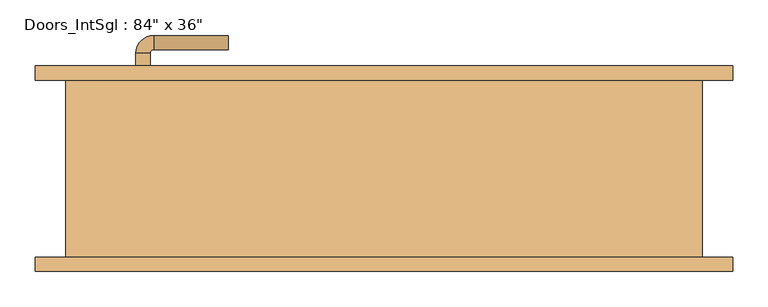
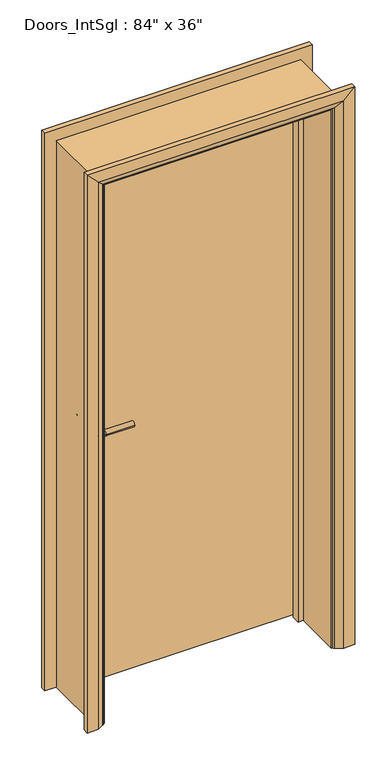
"""IFC4 building model written with IfcOpenShell, lengths in millimetres: door geometry."""

import ifcopenshell
import ifcopenshell.guid

model = None  # the IFC model being written
_history = None  # IfcOwnerHistory: only IFC2X3 demands one
_inside = {}  # id of a spatial element -> (the spatial element, [elements in it])
_under = {}  # id of a project, library or spatial element -> (it, [spatial elements below it])
_declared = {}  # id of a project -> (the project, [libraries it declares])
_typed = {}  # id of a type object -> (the type object, [elements of that type])
_made_of = {}  # id of a material, layer set ... -> (it, [elements and type objects made of it])


def new_model(schema):
    """Start an empty IFC model of exactly this schema.

    Asked for "IFC4X3", IfcOpenShell would pick the latest addendum, in which some entities
    have other attributes; the version numbers below select the first issue.
    IFC2X3 requires an IfcOwnerHistory on every rooted entity: one is made here for all.
    """
    global model, _history
    if schema == "IFC4X3":
        model = ifcopenshell.file(schema_version=(4, 3, 0, 0))
    else:
        model = ifcopenshell.file(schema=schema)
    _inside.clear()
    _under.clear()
    _declared.clear()
    _typed.clear()
    _made_of.clear()
    _history = None
    if model.schema == "IFC2X3":
        org = make("IfcOrganization", Name="unknown")
        user = make(
            "IfcPersonAndOrganization",
            ThePerson=make("IfcPerson", FamilyName="unknown"),
            TheOrganization=org,
        )
        app = make(
            "IfcApplication",
            ApplicationDeveloper=org,
            Version="unknown",
            ApplicationFullName="unknown",
            ApplicationIdentifier="unknown",
        )
        _history = make(
            "IfcOwnerHistory",
            OwningUser=user,
            OwningApplication=app,
            ChangeAction="ADDED",
            CreationDate=0,
        )
    return model


def make(cls, **values):
    """One entity of the class cls with the attributes given. An attribute that is None is left unset."""
    return model.create_entity(
        cls, **{name: value for name, value in values.items() if value is not None}
    )


def rooted(cls, **values):
    """An entity with a GlobalId (a new one), such as an element, a storey or a relation."""
    return make(cls, GlobalId=ifcopenshell.guid.new(), OwnerHistory=_history, **values)


def si_unit(unit_type, name, prefix=None):
    """IfcSIUnit, for example si_unit("LENGTHUNIT", "METRE", prefix="MILLI")."""
    return make("IfcSIUnit", UnitType=unit_type, Prefix=prefix, Name=name)


def assignment(units):
    """IfcUnitAssignment: the units of a project."""
    return None if units is None else make("IfcUnitAssignment", Units=units)


def point(xyz):
    """IfcCartesianPoint."""
    return None if xyz is None else make("IfcCartesianPoint", Coordinates=xyz)


def direction(xyz):
    """IfcDirection."""
    return None if xyz is None else make("IfcDirection", DirectionRatios=xyz)


def frame(location, z_axis=None, x_axis=None):
    """IfcAxis2Placement3D, a coordinate frame: its origin and axes. An axis left out is left unset."""
    return make(
        "IfcAxis2Placement3D",
        Location=point(location),
        Axis=direction(z_axis),
        RefDirection=direction(x_axis),
    )


def frame_2d(location, x_axis=None):
    """IfcAxis2Placement2D, a coordinate frame in the plane: its origin and x axis."""
    return make(
        "IfcAxis2Placement2D", Location=point(location), RefDirection=direction(x_axis)
    )


def origin():
    """The frame at (0, 0, 0) with its axes left unset."""
    return frame((0.0, 0.0, 0.0))


def place(relative_to, where):
    """IfcLocalPlacement: puts the frame where relative to a parent placement (None: the world)."""
    return make(
        "IfcLocalPlacement", PlacementRelTo=relative_to, RelativePlacement=where
    )


def context(
    kind, dimensions, precision=None, world=None, true_north=None, identifier=None
):
    """IfcGeometricRepresentationContext, for example the 3D "Model" context."""
    return make(
        "IfcGeometricRepresentationContext",
        ContextIdentifier=identifier,
        ContextType=kind,
        CoordinateSpaceDimension=dimensions,
        Precision=precision,
        WorldCoordinateSystem=world,
        TrueNorth=true_north,
    )


def project(units=None, contexts=None):
    """IfcProject with its units and contexts."""
    return rooted(
        "IfcProject",
        Name="project",
        RepresentationContexts=contexts,
        UnitsInContext=assignment(units),
    )


def spatial(cls, under=None, at=None, **own):
    """A site, building, storey or space (cls), placed at a placement, below another one or the project."""
    s = rooted(cls, ObjectPlacement=at, **own)
    if under is not None:
        _under.setdefault(under.id(), (under, []))[1].append(s)
    return s


def polyline(points):
    """IfcPolyline through the points."""
    return make("IfcPolyline", Points=[point(p) for p in points])


def circle_curve(where, radius):
    """IfcCircle in the frame where."""
    return make("IfcCircle", Position=where, Radius=radius)


def ellipse_curve(where, semi_axis1, semi_axis2):
    """IfcEllipse in the frame where."""
    return make(
        "IfcEllipse", Position=where, SemiAxis1=semi_axis1, SemiAxis2=semi_axis2
    )


def trimmed(basis, trim1, trim2, sense, master):
    """IfcTrimmedCurve: the piece of a basis curve between two trims."""
    return make(
        "IfcTrimmedCurve",
        BasisCurve=basis,
        Trim1=trim1,
        Trim2=trim2,
        SenseAgreement=sense,
        MasterRepresentation=master,
    )


def segment(curve, same_sense, transition):
    """IfcCompositeCurveSegment."""
    return make(
        "IfcCompositeCurveSegment",
        Transition=transition,
        SameSense=same_sense,
        ParentCurve=curve,
    )


def composite_curve(segments, self_intersect=None):
    """IfcCompositeCurve: segments joined end to end."""
    return make("IfcCompositeCurve", Segments=segments, SelfIntersect=self_intersect)


def outline(outer, holes=None, kind="AREA"):
    """IfcArbitraryClosedProfileDef: a profile drawn as a closed curve; with holes, ...WithVoids."""
    if holes is None:
        return make("IfcArbitraryClosedProfileDef", ProfileType=kind, OuterCurve=outer)
    return make(
        "IfcArbitraryProfileDefWithVoids",
        ProfileType=kind,
        OuterCurve=outer,
        InnerCurves=holes,
    )


def extrude(swept, where, along, depth):
    """IfcExtrudedAreaSolid: the profile swept, set in the frame where, extruded along a direction by depth."""
    return make(
        "IfcExtrudedAreaSolid",
        SweptArea=swept,
        Position=where,
        ExtrudedDirection=direction(along),
        Depth=depth,
    )


def faces_of(points, faces, orient=None, outer=None):
    """IfcFace entities. A face is a list of loops; a loop is a list of indices into points, from 0.

    orient and outer hold one flag for each loop. By default every Orientation is true, the
    first loop of a face is its IfcFaceOuterBound and the others are IfcFaceBound.
    """
    made = []
    for i, loops in enumerate(faces):
        bounds = []
        for j, loop in enumerate(loops):
            is_outer = j == 0 if outer is None else outer[i][j]
            bounds.append(
                make(
                    "IfcFaceOuterBound" if is_outer else "IfcFaceBound",
                    Bound=make("IfcPolyLoop", Polygon=[points[k] for k in loop]),
                    Orientation=True if orient is None else orient[i][j],
                )
            )
        made.append(make("IfcFace", Bounds=bounds))
    return made


def faceted_brep(points, faces, orient=None, outer=None, voids=None):
    """IfcFacetedBrep: a solid bounded by flat faces; with voids (closed shells), ...WithVoids."""
    shared = [point(p) for p in points]
    hull = make("IfcClosedShell", CfsFaces=faces_of(shared, faces, orient, outer))
    if voids is None:
        return make("IfcFacetedBrep", Outer=hull)
    return make(
        "IfcFacetedBrepWithVoids",
        Outer=hull,
        Voids=[
            make(cls, CfsFaces=faces_of(shared, fs, o, b)) for cls, fs, o, b in voids
        ],
    )


def shape(context_of_items, identifier, shape_type, items):
    """IfcShapeRepresentation: the items that make up one representation, for example the "Body"."""
    return make(
        "IfcShapeRepresentation",
        ContextOfItems=context_of_items,
        RepresentationIdentifier=identifier,
        RepresentationType=shape_type,
        Items=items,
    )


def source(mapping_origin, context_of_items, identifier, shape_type, items):
    """IfcRepresentationMap: a shape defined once, which mapped items show again and again."""
    return make(
        "IfcRepresentationMap",
        MappingOrigin=mapping_origin,
        MappedRepresentation=shape(context_of_items, identifier, shape_type, items),
    )


def transform(
    local_origin,
    x_axis=None,
    y_axis=None,
    z_axis=None,
    scale=None,
    scale2=None,
    scale3=None,
    uniform=True,
):
    """IfcCartesianTransformationOperator3D, or its non-uniform kind. x_axis, y_axis, z_axis: its Axis1, 2, 3."""
    if uniform:
        return make(
            "IfcCartesianTransformationOperator3D",
            Axis1=direction(x_axis),
            Axis2=direction(y_axis),
            LocalOrigin=point(local_origin),
            Scale=scale,
            Axis3=direction(z_axis),
        )
    return make(
        "IfcCartesianTransformationOperator3DnonUniform",
        Axis1=direction(x_axis),
        Axis2=direction(y_axis),
        LocalOrigin=point(local_origin),
        Scale=scale,
        Axis3=direction(z_axis),
        Scale2=scale2,
        Scale3=scale3,
    )


def mapped(mapping_source, mapping_target):
    """IfcMappedItem: shows the shape of a source again, moved by a transform."""
    return make(
        "IfcMappedItem", MappingSource=mapping_source, MappingTarget=mapping_target
    )


def made_of(thing, what):
    """Note that an element or type object is made of a material, layer set ...; save() writes the relation."""
    if what is not None:
        _made_of.setdefault(what.id(), (what, []))[1].append(thing)
    return thing


def element(
    cls,
    number,
    at=None,
    inside=None,
    cuts=None,
    type_object=None,
    material=None,
    context=None,
    identifier="Body",
    shape_type=None,
    held_by="IfcProductDefinitionShape",
    body=None,
    shapes=None,
    **own,
):
    """One element of the class cls, such as IfcWall. Its Tag is "e" and its number.

    at: its placement. inside: the storey or other place that contains it. cuts: it is an
    opening in that element (IfcRelVoidsElement). A single representation is given by context,
    identifier, shape_type and body (its items); several are given by shapes. held_by: the class
    of the entity that holds the representations. save() writes the other relations.
    """
    e = rooted(cls, Tag="e%d" % number, ObjectPlacement=at, **own)
    if body is not None:
        shapes = [shape(context, identifier, shape_type, body)]
    if shapes is not None:
        e.Representation = make(held_by, Representations=shapes)
    if inside is not None:
        _inside.setdefault(inside.id(), (inside, []))[1].append(e)
    if cuts is not None:
        rooted(
            "IfcRelVoidsElement", RelatingBuildingElement=cuts, RelatedOpeningElement=e
        )
    if type_object is not None:
        _typed.setdefault(type_object.id(), (type_object, []))[1].append(e)
    return made_of(e, material)


def aggregate(whole, parts):
    """IfcRelAggregates: a whole, such as a stair, and the parts it consists of."""
    return rooted("IfcRelAggregates", RelatingObject=whole, RelatedObjects=parts)


def save(model, path):
    """Write the relations noted so far, then the file.

    IfcRelAggregates (storeys below a building ...), IfcRelContainedInSpatialStructure (elements
    in a storey), IfcRelDefinesByType, IfcRelAssociatesMaterial and IfcRelDeclares: one each for
    every whole, place, type object, material and project.
    """
    for whole, parts in _under.values():
        aggregate(whole, parts)
    for where, things in _inside.values():
        rooted(
            "IfcRelContainedInSpatialStructure",
            RelatedElements=things,
            RelatingStructure=where,
        )
    for kind, things in _typed.values():
        rooted("IfcRelDefinesByType", RelatedObjects=things, RelatingType=kind)
    for what, things in _made_of.values():
        rooted("IfcRelAssociatesMaterial", RelatedObjects=things, RelatingMaterial=what)
    for by, libraries in _declared.values():
        rooted("IfcRelDeclares", RelatingContext=by, RelatedDefinitions=libraries)
    model.write(path)


def plane_surface(at):
    """IfcPlane: the flat surface through the origin of the frame at, square to its z axis."""
    return make("IfcPlane", Position=at)


def cylinder_surface(at, radius):
    """IfcCylindricalSurface: all points at the distance radius from the z axis of the frame at."""
    return make("IfcCylindricalSurface", Position=at, Radius=radius)


def revolved_surface(curve, axis_point, axis_direction):
    """IfcSurfaceOfRevolution: the curve turned about the line through axis_point along axis_direction."""
    return make(
        "IfcSurfaceOfRevolution",
        SweptCurve=make("IfcArbitraryOpenProfileDef", ProfileType="CURVE", Curve=curve),
        AxisPosition=make("IfcAxis1Placement", Location=point(axis_point), Axis=direction(axis_direction)),
    )


def advanced_brep(points, edges, surfaces, faces):
    """IfcAdvancedBrep: a solid bounded by faces that lie on surfaces and meet in shared edges.

    An edge is (start, end): straight between two places in points (the first is 0);
    or (start, end, curve); or (start, end, curve, False) where it runs against its curve.
    A face is (place in surfaces, loops), or (place, loops, False) where it looks against
    its surface's normal. A loop lists edges by number (the first is 1), with a minus sign
    where the edge is run from its end to its start. The first loop is the outer one.
    """
    corners = [point(p) for p in points]
    vertices = [make("IfcVertexPoint", VertexGeometry=c) for c in corners]
    made = []
    for start, end, *more in edges:
        made.append(
            make(
                "IfcEdgeCurve",
                EdgeStart=vertices[start],
                EdgeEnd=vertices[end],
                EdgeGeometry=more[0] if more else make("IfcPolyline", Points=[corners[start], corners[end]]),
                SameSense=more[1] if len(more) > 1 else True,
            )
        )
    hull = []
    for where, loops, *sense in faces:
        bounds = []
        for j, loop in enumerate(loops):
            ring = [make("IfcOrientedEdge", EdgeElement=made[abs(k) - 1], Orientation=k > 0) for k in loop]
            bounds.append(
                make(
                    "IfcFaceOuterBound" if j == 0 else "IfcFaceBound",
                    Bound=make("IfcEdgeLoop", EdgeList=ring),
                    Orientation=True,
                )
            )
        hull.append(make("IfcAdvancedFace", Bounds=bounds, FaceSurface=surfaces[where], SameSense=sense[0] if sense else True))
    return make("IfcAdvancedBrep", Outer=make("IfcClosedShell", CfsFaces=hull))


def door_e5733862(model_context):
    return source(origin(), model_context, "Body", "SolidModel", [
        advanced_brep(
        [(-350.2, 79.0, 1000.0), (-330.2, 79.0, 1000.0), (-330.2, 49.0, 1000.0), (-350.2, 49.0, 1000.0), (-325.2, 44.0, 1000.0), (-325.2, 24.0, 1000.0), (-220.2, 24.0, 1000.0), (-220.2, 44.0, 1000.0)],
        [
            (0, 1, circle_curve(frame((-340.2, 79.0, 1000.0), z_axis=(0.0, 1.0, 0.0), x_axis=(1.0, 0.0, 0.0)), 10.0)),
            (1, 0, circle_curve(frame((-340.2, 79.0, 1000.0), z_axis=(0.0, 1.0, 0.0), x_axis=(1.0, 0.0, 0.0)), 10.0)),
            (1, 2),
            (2, 3, circle_curve(frame((-340.2, 49.0, 1000.0), z_axis=(0.0, 1.0, 0.0), x_axis=(1.0, 0.0, 0.0)), 10.0)),
            (3, 0),
            (3, 2, circle_curve(frame((-340.2, 49.0, 1000.0), z_axis=(0.0, 1.0, 0.0), x_axis=(1.0, 0.0, 0.0)), 10.0)),
            (4, 5, circle_curve(frame((-325.2, 34.0, 1000.0), z_axis=(-1.0, 0.0, 0.0), x_axis=(0.0, 1.0, 0.0)), 10.0)),
            (5, 3, circle_curve(frame((-325.2, 49.0, 1000.0), z_axis=(0.0, 0.0, -1.0), x_axis=(-1.0, 0.0, 0.0)), 25.0)),
            (2, 4, circle_curve(frame((-325.2, 49.0, 1000.0), z_axis=(0.0, 0.0, 1.0), x_axis=(-1.0, 0.0, 0.0)), 5.0)),
            (5, 4, circle_curve(frame((-325.2, 34.0, 1000.0), z_axis=(-1.0, 0.0, 0.0), x_axis=(0.0, 1.0, 0.0)), 10.0)),
            (6, 7, circle_curve(frame((-220.2, 34.0, 1000.0), z_axis=(1.0, 0.0, 0.0), x_axis=(0.0, 1.0, 0.0)), 10.0)),
            (7, 6, circle_curve(frame((-220.2, 34.0, 1000.0), z_axis=(1.0, 0.0, 0.0), x_axis=(0.0, 1.0, 0.0)), 10.0)),
            (4, 7),
            (6, 5),
        ],
        [
            plane_surface(frame((-340.2, 79.0, 1000.0), z_axis=(0.0, 1.0, 0.0), x_axis=(0.0, 0.0, 1.0))),
            cylinder_surface(frame((-340.2, 79.0, 1000.0), z_axis=(0.0, 1.0, 0.0), x_axis=(1.0, 0.0, 0.0)), 10.0),
            revolved_surface(trimmed(ellipse_curve(frame((-340.2, 49.0, 1000.0), z_axis=(0.0, -1.0, 0.0), x_axis=(1.0, 0.0, 0.0)), 10.0, 10.0), [point((-350.2, 49.0, 1000.0))], [point((-330.2, 49.0, 1000.0))], True, "CARTESIAN"), (-325.2, 49.0, 1000.0), (0.0, 0.0, -1.0)),
            revolved_surface(trimmed(ellipse_curve(frame((-340.2, 49.0, 1000.0), z_axis=(0.0, -1.0, 0.0), x_axis=(1.0, 0.0, 0.0)), 10.0, 10.0), [point((-330.2, 49.0, 1000.0))], [point((-350.2, 49.0, 1000.0))], True, "CARTESIAN"), (-325.2, 49.0, 1000.0), (0.0, 0.0, -1.0)),
            plane_surface(frame((-220.2, 34.0, 1000.0), z_axis=(1.0, 0.0, 0.0), x_axis=(0.0, 0.0, 1.0))),
            cylinder_surface(frame((-325.2, 34.0, 1000.0), z_axis=(-1.0, 0.0, 0.0), x_axis=(0.0, 1.0, 0.0)), 10.0),
        ],
        [
            (0, [[1, 2]]),
            (1, [[3, 4, 5, -2]]),
            (1, [[-5, 6, -3, -1]]),
            (2, [[7, 8, -4, 9]]),
            (3, [[10, -9, -6, -8]]),
            (4, [[11, 12]]),
            (5, [[13, -11, 14, -7]]),
            (5, [[-14, -12, -13, -10]]),
        ],
    ),
        extrude(outline(composite_curve([segment(trimmed(circle_curve(frame_2d((1000.0, -342.7)), 30.0), [point((1000.0, -372.7))], [point((1000.0, -312.7))], False, "CARTESIAN"), True, "CONTINUOUS"), segment(trimmed(circle_curve(frame_2d((1000.0, -342.7)), 30.0), [point((1000.0, -312.7))], [point((1000.0, -372.7))], False, "CARTESIAN"), True, "CONTINUOUS")], self_intersect=False)), frame((0.0, 79.0, 0.0), z_axis=(0.0, 1.0, 0.0), x_axis=(0.0, 0.0, 1.0)), (0.0, 0.0, 1.0), 8.0),
        advanced_brep(
        [(-350.2, 133.0, 1000.0), (-330.2, 133.0, 1000.0), (-350.2, 163.0, 1000.0), (-330.2, 163.0, 1000.0), (-325.2, 168.0, 1000.0), (-325.2, 188.0, 1000.0), (-220.2, 188.0, 1000.0), (-220.2, 168.0, 1000.0)],
        [
            (0, 1, circle_curve(frame((-340.2, 133.0, 1000.0), z_axis=(0.0, -1.0, 0.0), x_axis=(1.0, 0.0, 0.0)), 10.0)),
            (1, 0, circle_curve(frame((-340.2, 133.0, 1000.0), z_axis=(0.0, -1.0, 0.0), x_axis=(1.0, 0.0, 0.0)), 10.0)),
            (0, 2),
            (2, 3, circle_curve(frame((-340.2, 163.0, 1000.0), z_axis=(0.0, -1.0, 0.0), x_axis=(1.0, 0.0, 0.0)), 10.0)),
            (3, 1),
            (3, 2, circle_curve(frame((-340.2, 163.0, 1000.0), z_axis=(0.0, -1.0, 0.0), x_axis=(1.0, 0.0, 0.0)), 10.0)),
            (4, 3, circle_curve(frame((-325.2, 163.0, 1000.0), z_axis=(0.0, 0.0, 1.0), x_axis=(-1.0, 0.0, 0.0)), 5.0)),
            (2, 5, circle_curve(frame((-325.2, 163.0, 1000.0), z_axis=(0.0, 0.0, -1.0), x_axis=(-1.0, 0.0, 0.0)), 25.0)),
            (5, 4, circle_curve(frame((-325.2, 178.0, 1000.0), z_axis=(-1.0, 0.0, 0.0), x_axis=(0.0, -1.0, 0.0)), 10.0)),
            (4, 5, circle_curve(frame((-325.2, 178.0, 1000.0), z_axis=(-1.0, 0.0, 0.0), x_axis=(0.0, -1.0, 0.0)), 10.0)),
            (6, 7, circle_curve(frame((-220.2, 178.0, 1000.0), z_axis=(1.0, 0.0, 0.0), x_axis=(0.0, -1.0, 0.0)), 10.0)),
            (7, 6, circle_curve(frame((-220.2, 178.0, 1000.0), z_axis=(1.0, 0.0, 0.0), x_axis=(0.0, -1.0, 0.0)), 10.0)),
            (5, 6),
            (7, 4),
        ],
        [
            plane_surface(frame((-340.2, 133.0, 1000.0), z_axis=(0.0, -1.0, 0.0), x_axis=(0.0, 0.0, 1.0))),
            cylinder_surface(frame((-340.2, 133.0, 1000.0), z_axis=(0.0, -1.0, 0.0), x_axis=(1.0, 0.0, 0.0)), 10.0),
            revolved_surface(trimmed(ellipse_curve(frame((-340.2, 163.0, 1000.0), z_axis=(0.0, -1.0, 0.0), x_axis=(1.0, 0.0, 0.0)), 10.0, 10.0), [point((-350.2, 163.0, 1000.0))], [point((-330.2, 163.0, 1000.0))], True, "CARTESIAN"), (-325.2, 163.0, 1000.0), (0.0, 0.0, -1.0)),
            revolved_surface(trimmed(ellipse_curve(frame((-340.2, 163.0, 1000.0), z_axis=(0.0, -1.0, 0.0), x_axis=(1.0, 0.0, 0.0)), 10.0, 10.0), [point((-330.2, 163.0, 1000.0))], [point((-350.2, 163.0, 1000.0))], True, "CARTESIAN"), (-325.2, 163.0, 1000.0), (0.0, 0.0, -1.0)),
            plane_surface(frame((-220.2, 178.0, 1000.0), z_axis=(1.0, 0.0, 0.0), x_axis=(0.0, 0.0, 1.0))),
            cylinder_surface(frame((-325.2, 178.0, 1000.0), z_axis=(-1.0, 0.0, 0.0), x_axis=(0.0, -1.0, 0.0)), 10.0),
        ],
        [
            (0, [[1, 2]]),
            (1, [[-1, 3, 4, 5]]),
            (1, [[-2, -5, 6, -3]]),
            (2, [[7, -4, 8, 9]]),
            (3, [[-8, -6, -7, 10]]),
            (4, [[11, 12]]),
            (5, [[-9, 13, -12, 14]]),
            (5, [[-10, -14, -11, -13]]),
        ],
    ),
        extrude(outline(composite_curve([segment(trimmed(circle_curve(frame_2d((1000.0, -342.7)), 30.0), [point((1000.0, -372.7))], [point((1000.0, -312.7))], False, "CARTESIAN"), True, "CONTINUOUS"), segment(trimmed(circle_curve(frame_2d((1000.0, -342.7)), 30.0), [point((1000.0, -312.7))], [point((1000.0, -372.7))], False, "CARTESIAN"), True, "CONTINUOUS")], self_intersect=False)), frame((0.0, 125.0, 0.0), z_axis=(0.0, 1.0, 0.0), x_axis=(0.0, 0.0, 1.0)), (0.0, 0.0, 1.0), 8.0),
        extrude(outline(polyline([(415.2, 87.0), (-415.2, 87.0), (-415.2, 125.0), (415.2, 125.0), (415.2, 87.0)])), frame((0.0, 0.0, 8.0), z_axis=(0.0, 0.0, 1.0), x_axis=(1.0, 0.0, 0.0)), (0.0, 0.0, 1.0), 2083.6),
        advanced_brep(
        [(492.2, 145.0, 0.0), (492.2, 125.0, 0.0), (422.2, 125.0, 0.0), (426.2, 131.0, 0.0), (452.2, 145.0, 0.0), (492.2, 145.0, 2168.6), (492.2, 125.0, 2168.6), (-492.2, 125.0, 2168.6), (-492.2, 125.0, 0.0), (-422.2, 125.0, 0.0), (-422.2, 125.0, 2098.6), (422.2, 125.0, 2098.6), (426.2, 131.0, 2102.6), (452.2, 145.0, 2128.6), (-452.2, 145.0, 2128.6), (-452.2, 145.0, 0.0), (-492.2, 145.0, 0.0), (-492.2, 145.0, 2168.6), (-426.2, 131.0, 0.0), (-426.2, 131.0, 2102.6)],
        [
            (0, 1),
            (1, 2),
            (2, 3, circle_curve(frame((430.2, 124.0, 0.0), z_axis=(0.0, 0.0, -1.0), x_axis=(1.0, 0.0, 0.0)), 8.0622577)),
            (3, 4),
            (4, 0),
            (0, 5),
            (5, 6),
            (6, 1),
            (6, 7),
            (7, 8),
            (8, 9),
            (9, 10),
            (10, 11),
            (11, 2),
            (11, 12, ellipse_curve(frame((430.2, 124.0, 2106.6), z_axis=(0.7071067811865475, 0.0, -0.7071067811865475), x_axis=(-0.7071067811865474, 0.0, -0.7071067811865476)), 11.4017543, 8.0622577)),
            (12, 3),
            (12, 13),
            (13, 4),
            (13, 14),
            (14, 15),
            (15, 16),
            (16, 17),
            (17, 5),
            (7, 17),
            (16, 8),
            (15, 18),
            (18, 9, circle_curve(frame((-430.2, 124.0, 0.0), z_axis=(0.0, 0.0, -1.0), x_axis=(-1.0, 0.0, 0.0)), 8.0622577)),
            (19, 10, ellipse_curve(frame((-430.2, 124.0, 2106.6), z_axis=(-0.7071067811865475, 0.0, -0.7071067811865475), x_axis=(-0.7071067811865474, 0.0, 0.7071067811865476)), 11.4017543, 8.0622577)),
            (18, 19),
            (14, 19),
            (19, 12),
        ],
        [
            plane_surface(frame((422.2, 125.0, 0.0), z_axis=(0.0, 0.0, -1.0), x_axis=(0.0, -1.0, 0.0))),
            plane_surface(frame((492.2, 145.0, 0.0), z_axis=(1.0, 0.0, 0.0), x_axis=(0.0, 0.0, 1.0))),
            plane_surface(frame((492.2, 125.0, 0.0), z_axis=(0.0, -1.0, 0.0), x_axis=(0.0, 0.0, 1.0))),
            cylinder_surface(frame((430.2, 124.0, 0.0), z_axis=(0.0, 0.0, -1.0), x_axis=(1.0, 0.0, 0.0)), 8.0622577),
            plane_surface(frame((426.2, 131.0, 0.0), z_axis=(-0.4740998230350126, 0.880471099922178, 0.0), x_axis=(0.0, 0.0, 1.0))),
            plane_surface(frame((452.2, 145.0, 0.0), z_axis=(0.0, 1.0, 0.0), x_axis=(0.0, 0.0, 1.0))),
            plane_surface(frame((-492.2, 145.0, 2168.6), z_axis=(-1.0, 0.0, 0.0), x_axis=(0.0, 0.0, -1.0))),
            plane_surface(frame((-422.2, 125.0, 0.0), z_axis=(0.0, 0.0, -1.0), x_axis=(0.0, -1.0, 0.0))),
            cylinder_surface(frame((-430.2, 124.0, 2098.6), z_axis=(0.0, 0.0, 1.0), x_axis=(-1.0, 0.0, 0.0)), 8.0622577),
            plane_surface(frame((-426.2, 131.0, 2102.6), z_axis=(0.47409982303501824, 0.8804710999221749, 0.0), x_axis=(0.0, 0.0, -1.0))),
            plane_surface(frame((492.2, 145.0, 2168.6), z_axis=(0.0, 0.0, 1.0), x_axis=(-1.0, 0.0, 0.0))),
            cylinder_surface(frame((422.2, 124.0, 2106.6), z_axis=(1.0, 0.0, 0.0), x_axis=(0.0, 0.0, 1.0)), 8.0622577),
            plane_surface(frame((426.2, 131.0, 2102.6), z_axis=(0.0, 0.8804710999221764, -0.4740998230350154), x_axis=(-1.0, 0.0, 0.0))),
        ],
        [
            (0, [[1, 2, 3, 4, 5]]),
            (1, [[-1, 6, 7, 8]]),
            (2, [[-2, -8, 9, 10, 11, 12, 13, 14]]),
            (3, [[-3, -14, 15, 16]]),
            (4, [[-4, -16, 17, 18]]),
            (5, [[-5, -18, 19, 20, 21, 22, 23, -6]]),
            (6, [[24, -22, 25, -10]]),
            (7, [[-21, 26, 27, -11, -25]]),
            (8, [[28, -12, -27, 29]]),
            (9, [[30, -29, -26, -20]]),
            (10, [[-7, -23, -24, -9]]),
            (11, [[-15, -13, -28, 31]]),
            (12, [[-17, -31, -30, -19]]),
        ],
    ),
        extrude(outline(polyline([(0.0, -417.2), (0.0, -398.2), (2074.6, -398.2), (2074.6, 398.2), (0.0, 398.2), (0.0, 417.2), (2093.6, 417.2), (2093.6, -417.2), (0.0, -417.2)])), frame((0.0, 53.0, 0.0), z_axis=(0.0, 1.0, 0.0), x_axis=(0.0, 0.0, 1.0)), (0.0, 0.0, 1.0), 32.0),
        advanced_brep(
        [(-492.2, -145.0, 0.0), (-492.2, -125.0, 0.0), (-422.2, -125.0, 0.0), (-426.2, -131.0, 0.0), (-452.2, -145.0, 0.0), (-492.2, -145.0, 2168.6), (-492.2, -125.0, 2168.6), (-422.2, -125.0, 2098.6), (-426.2, -131.0, 2102.6), (-452.2, -145.0, 2128.6), (492.2, -145.0, 0.0), (452.2, -145.0, 0.0), (426.2, -131.0, 0.0), (422.2, -125.0, 0.0), (492.2, -125.0, 0.0), (492.2, -145.0, 2168.6), (452.2, -145.0, 2128.6), (426.2, -131.0, 2102.6), (422.2, -125.0, 2098.6), (492.2, -125.0, 2168.6)],
        [
            (0, 1),
            (1, 2),
            (2, 3, circle_curve(frame((-430.2, -124.0, 0.0), z_axis=(0.0, 0.0, -1.0), x_axis=(-1.0, 0.0, 0.0)), 8.0622577)),
            (3, 4),
            (4, 0),
            (0, 5),
            (5, 6),
            (6, 1),
            (6, 7),
            (7, 2),
            (7, 8, ellipse_curve(frame((-430.2, -124.0, 2106.6), z_axis=(-0.7071067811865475, 0.0, -0.7071067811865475), x_axis=(0.7071067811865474, 0.0, -0.7071067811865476)), 11.4017543, 8.0622577)),
            (8, 3),
            (8, 9),
            (9, 4),
            (9, 5),
            (10, 11),
            (11, 12),
            (12, 13, circle_curve(frame((430.2, -124.0, 0.0), z_axis=(0.0, 0.0, -1.0), x_axis=(1.0, 0.0, 0.0)), 8.0622577)),
            (13, 14),
            (14, 10),
            (15, 16),
            (16, 11),
            (10, 15),
            (16, 17),
            (17, 12),
            (17, 18, ellipse_curve(frame((430.2, -124.0, 2106.6), z_axis=(0.7071067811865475, 0.0, -0.7071067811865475), x_axis=(0.7071067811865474, 0.0, 0.7071067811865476)), 11.4017543, 8.0622577)),
            (18, 13),
            (18, 19),
            (19, 14),
            (19, 15),
            (5, 15),
            (19, 6),
            (18, 7),
            (17, 8),
            (16, 9),
        ],
        [
            plane_surface(frame((-422.2, -197.8010989, 0.0), z_axis=(0.0, 0.0, -1.0), x_axis=(1.0, 0.0, 0.0))),
            plane_surface(frame((-492.2, -145.0, 0.0), z_axis=(-1.0, 0.0, 0.0), x_axis=(0.0, 0.0, 1.0))),
            plane_surface(frame((-492.2, -125.0, 0.0), z_axis=(0.0, 1.0, 0.0), x_axis=(0.0, 0.0, 1.0))),
            cylinder_surface(frame((-430.2, -124.0, 0.0), z_axis=(0.0, 0.0, -1.0), x_axis=(-1.0, 0.0, 0.0)), 8.0622577),
            plane_surface(frame((-426.2, -131.0, 0.0), z_axis=(0.4740998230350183, -0.8804710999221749, 0.0), x_axis=(0.0, 0.0, 1.0))),
            plane_surface(frame((-452.2, -145.0, 0.0), z_axis=(0.0, -1.0, 0.0), x_axis=(0.0, 0.0, 1.0))),
            plane_surface(frame((422.2, -197.8010989, 0.0), z_axis=(0.0, 0.0, -1.0), x_axis=(-1.0, 0.0, 0.0))),
            plane_surface(frame((452.2, -145.0, 2128.6), z_axis=(0.0, -1.0, 0.0), x_axis=(0.0, 0.0, -1.0))),
            plane_surface(frame((426.2, -131.0, 2102.6), z_axis=(-0.4740998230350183, -0.8804710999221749, 0.0), x_axis=(0.0, 0.0, -1.0))),
            cylinder_surface(frame((430.2, -124.0, 2098.6), z_axis=(0.0, 0.0, 1.0), x_axis=(1.0, 0.0, 0.0)), 8.0622577),
            plane_surface(frame((492.2, -125.0, 2168.6), z_axis=(0.0, 1.0, 0.0), x_axis=(0.0, 0.0, -1.0))),
            plane_surface(frame((492.2, -145.0, 2168.6), z_axis=(1.0, 0.0, 0.0), x_axis=(0.0, 0.0, -1.0))),
            plane_surface(frame((-492.2, -145.0, 2168.6), z_axis=(0.0, 0.0, 1.0), x_axis=(1.0, 0.0, 0.0))),
            plane_surface(frame((-492.2, -125.0, 2168.6), z_axis=(0.0, 1.0, 0.0), x_axis=(1.0, 0.0, 0.0))),
            cylinder_surface(frame((-422.2, -124.0, 2106.6), z_axis=(-1.0, 0.0, 0.0), x_axis=(0.0, 0.0, 1.0)), 8.0622577),
            plane_surface(frame((-426.2, -131.0, 2102.6), z_axis=(0.0, -0.8804710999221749, -0.4740998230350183), x_axis=(1.0, 0.0, 0.0))),
            plane_surface(frame((-452.2, -145.0, 2128.6), z_axis=(0.0, -1.0, 0.0), x_axis=(1.0, 0.0, 0.0))),
        ],
        [
            (0, [[1, 2, 3, 4, 5]]),
            (1, [[-1, 6, 7, 8]]),
            (2, [[-2, -8, 9, 10]]),
            (3, [[-3, -10, 11, 12]]),
            (4, [[-4, -12, 13, 14]]),
            (5, [[-5, -14, 15, -6]]),
            (6, [[16, 17, 18, 19, 20]]),
            (7, [[21, 22, -16, 23]]),
            (8, [[24, 25, -17, -22]]),
            (9, [[26, 27, -18, -25]]),
            (10, [[28, 29, -19, -27]]),
            (11, [[30, -23, -20, -29]]),
            (12, [[-7, 31, -30, 32]]),
            (13, [[-9, -32, -28, 33]]),
            (14, [[-11, -33, -26, 34]]),
            (15, [[-13, -34, -24, 35]]),
            (16, [[-15, -35, -21, -31]]),
        ],
    ),
        faceted_brep([(-417.2, 125.0, 0.0), (-417.2, -125.0, 0.0), (-449.2, -125.0, 0.0), (-449.2, 125.0, 0.0), (-417.2, 125.0, 2093.6), (-417.2, -125.0, 2093.6), (-449.2, -125.0, 2125.6), (-449.2, 125.0, 2125.6), (417.2, 125.0, 0.0), (449.2, 125.0, 0.0), (449.2, -125.0, 0.0), (417.2, -125.0, 0.0), (417.2, 125.0, 2093.6), (449.2, 125.0, 2125.6), (449.2, -125.0, 2125.6), (417.2, -125.0, 2093.6)], [[[0, 1, 2, 3]], [[1, 0, 4, 5]], [[2, 1, 5, 6]], [[3, 2, 6, 7]], [[0, 3, 7, 4]], [[8, 9, 10, 11]], [[12, 13, 9, 8]], [[13, 14, 10, 9]], [[14, 15, 11, 10]], [[15, 12, 8, 11]], [[5, 4, 12, 15]], [[6, 5, 15, 14]], [[7, 6, 14, 13]], [[4, 7, 13, 12]]]),
    ])


if __name__ == "__main__":
    model = new_model("IFC4")
    model_context = context("Model", 3, world=origin())
    ifc_project = project(units=[si_unit("LENGTHUNIT", "METRE", prefix="MILLI")], contexts=[model_context])
    site = spatial("IfcSite", under=ifc_project)
    building = spatial("IfcBuilding", under=site)
    placement = place(None, origin())
    door_shape = door_e5733862(model_context)
    element("IfcDoor", 1, ObjectType="Doors_IntSgl : 84\" x 36\"", at=placement, inside=building, context=model_context, shape_type="MappedRepresentation", body=[
        mapped(door_shape, transform((0.0, 0.0, 0.0), x_axis=(1.0, 0.0, 0.0), y_axis=(0.0, 1.0, 0.0), z_axis=(0.0, 0.0, 1.0))),
    ])
    save(model, "model.ifc")
